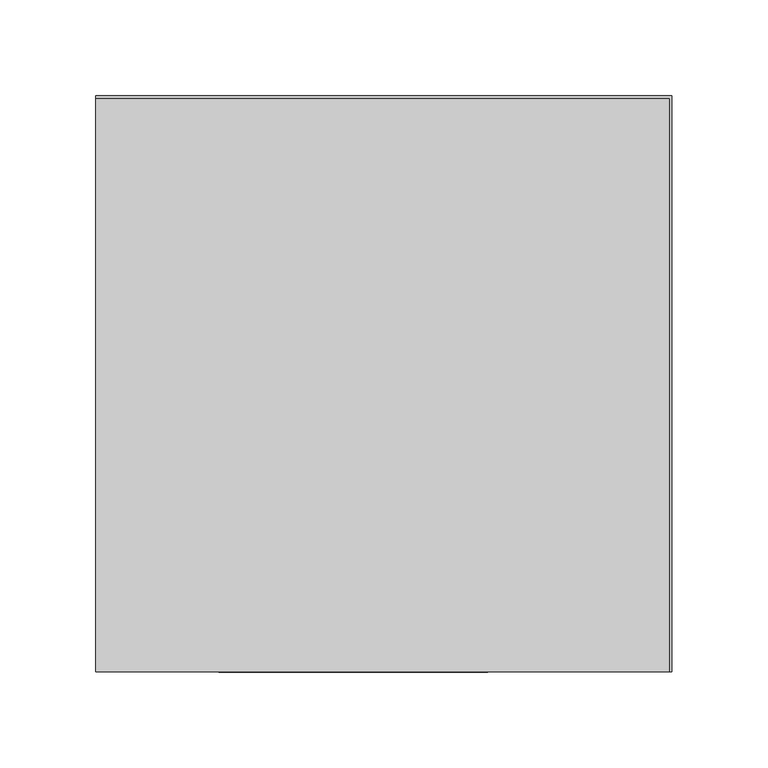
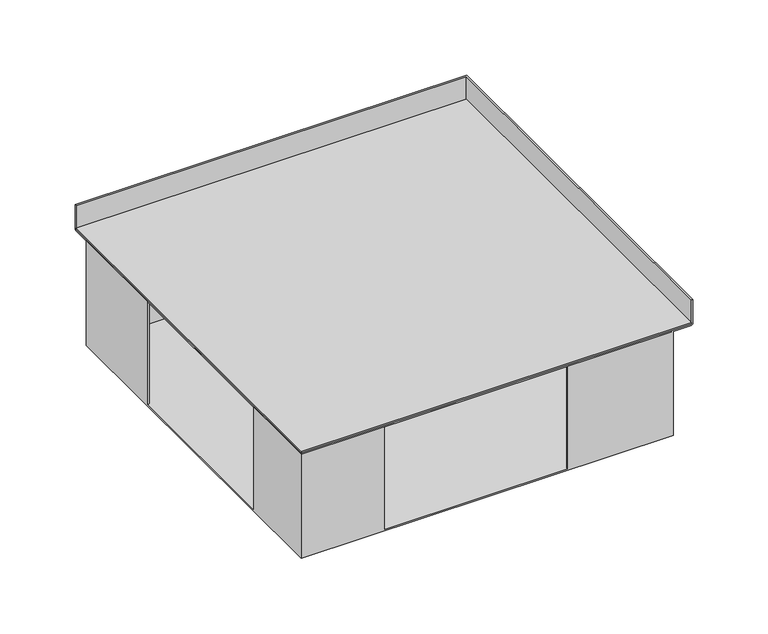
"""IFC4 building model written with IfcOpenShell, lengths in millimetres: proxy geometry, TECHNO_Угловой элемент_KVU : 300_105_90°."""

from ifc_helpers import new_model, si_unit, frame, origin, place, context, project, spatial, polyline, circle_curve, ellipse_curve, outline, extrude, source, transform, mapped, element, save
from ifc_brep_helpers import plane_surface, cylinder_surface, advanced_brep


def mechanical_equipment_c6cb3a49(model_context):
    return source(origin(), model_context, "Body", "SolidModel", [
        extrude(outline(polyline([(0.0, 148.8), (298.8, 148.8), (298.8, -150.0), (0.0, -150.0), (0.0, 148.8)])), frame((0.0, 0.0, -19.3), z_axis=(0.0, 0.0, 1.0), x_axis=(1.0, 0.0, 0.0)), (0.0, 0.0, 1.0), 1.2),
        advanced_brep(
        [(284.0, -148.8, -103.8), (284.0, 134.0, -103.8), (1.2, 134.0, -103.8), (1.2, 54.0, -103.8), (0.0, 54.0, -103.8), (0.0, -86.0, -103.8), (1.2, -86.0, -103.8), (1.2, -148.8, -103.8), (64.0, -148.8, -103.8), (64.0, -150.0, -103.8), (204.0, -150.0, -103.8), (204.0, -148.8, -103.8), (0.0, 135.2, -105.0), (285.2, 135.2, -105.0), (285.2, -150.0, -105.0), (0.0, -150.0, -105.0), (0.0, 135.2, -20.5), (0.0, -150.0, -20.5), (0.0, 134.0, -20.5), (0.0, 135.2, -19.3), (0.0, 148.8, -19.3), (0.0, 148.8, 0.0), (0.0, 150.0, 0.0), (0.0, 150.0, -19.3), (0.0, 148.8, -20.5), (0.0, -86.0, -20.8), (0.0, 54.0, -20.8), (285.2, -150.0, -20.5), (298.8, -150.0, -20.5), (300.0, -150.0, -19.3), (300.0, -150.0, 0.0), (298.8, -150.0, 0.0), (298.8, -150.0, -19.3), (285.2, -150.0, -19.3), (284.0, -150.0, -20.5), (64.0, -150.0, -20.8), (204.0, -150.0, -20.8), (285.2, 135.2, -20.5), (1.2, 135.2, -19.3), (1.2, -148.8, -19.3), (285.2, -148.8, -19.3), (298.8, 148.8, -19.3), (285.2, -134.0, -19.3), (16.0, -134.0, -19.3), (16.0, 135.2, -19.3), (285.2, 135.2, -19.3), (16.0, -134.0, -20.5), (16.0, 134.0, -20.5), (284.0, -134.0, -20.5), (284.0, -148.8, -20.5), (1.2, -148.8, -20.5), (1.2, 134.0, -20.5), (1.2, -86.0, -20.8), (1.2, 54.0, -20.8), (204.0, -148.8, -20.8), (64.0, -148.8, -20.8), (300.0, 150.0, -19.3), (300.0, 150.0, 0.0), (298.8, 148.8, 0.0), (298.8, 148.8, -20.5), (284.0, 134.0, -20.5)],
        [
            (0, 1),
            (1, 2),
            (2, 3),
            (3, 4),
            (4, 5),
            (5, 6),
            (6, 7),
            (7, 8),
            (8, 9),
            (9, 10),
            (10, 11),
            (11, 0),
            (12, 13),
            (13, 14),
            (14, 15),
            (15, 12),
            (16, 12),
            (15, 17),
            (17, 18),
            (18, 19, circle_curve(frame((0.0, 135.2, -20.5), z_axis=(-1.0, 0.0, 0.0), x_axis=(0.0, -1.0, 0.0)), 1.2)),
            (19, 20),
            (20, 21),
            (21, 22),
            (22, 23),
            (23, 24, circle_curve(frame((0.0, 148.8, -19.3), z_axis=(-1.0, 0.0, 0.0), x_axis=(0.0, -1.0, 0.0)), 1.2)),
            (24, 16),
            (25, 5),
            (4, 26),
            (26, 25),
            (14, 27),
            (27, 28),
            (28, 29, circle_curve(frame((298.8, -150.0, -19.3), z_axis=(0.0, -1.0, 0.0), x_axis=(-1.0, 0.0, 0.0)), 1.2)),
            (29, 30),
            (30, 31),
            (31, 32),
            (32, 33),
            (33, 34, circle_curve(frame((285.2, -150.0, -20.5), z_axis=(0.0, -1.0, 0.0), x_axis=(-1.0, 0.0, 0.0)), 1.2)),
            (34, 17),
            (9, 35),
            (35, 36),
            (36, 10),
            (16, 37),
            (37, 13),
            (37, 27),
            (38, 39),
            (39, 40),
            (40, 33),
            (32, 41),
            (41, 20),
            (19, 38),
            (42, 43),
            (43, 44),
            (44, 45),
            (45, 42),
            (43, 46),
            (46, 47),
            (47, 44, circle_curve(frame((16.0, 135.2, -20.5), z_axis=(-1.0, 0.0, 0.0), x_axis=(0.0, -1.0, 0.0)), 1.2)),
            (42, 48, circle_curve(frame((285.2, -134.0, -20.5), z_axis=(0.0, -1.0, 0.0), x_axis=(-1.0, 0.0, 0.0)), 1.2)),
            (48, 46),
            (48, 49),
            (49, 50),
            (50, 51),
            (51, 47),
            (50, 7),
            (6, 52),
            (52, 53),
            (53, 3),
            (2, 51),
            (49, 0),
            (11, 54),
            (54, 55),
            (55, 8),
            (38, 18, ellipse_curve(frame((1.2, 135.2, -20.5), z_axis=(0.7071067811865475, -0.7071067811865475, 0.0), x_axis=(0.7071067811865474, 0.7071067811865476, 0.0)), 1.6970563, 1.2)),
            (17, 39, ellipse_curve(frame((1.2, -148.8, -20.5), z_axis=(-0.7071067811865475, 0.7071067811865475, 0.0), x_axis=(0.7071067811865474, 0.7071067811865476, 0.0)), 1.6970563, 1.2)),
            (34, 40, ellipse_curve(frame((285.2, -148.8, -20.5), z_axis=(-0.7071067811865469, 0.707106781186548, 0.0), x_axis=(-0.7071067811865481, -0.7071067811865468, 0.0)), 1.6970563, 1.2)),
            (29, 56),
            (56, 57),
            (57, 30),
            (57, 22),
            (21, 58),
            (58, 31),
            (58, 41),
            (24, 59),
            (59, 28),
            (59, 56, ellipse_curve(frame((298.8, 148.8, -19.3), z_axis=(0.7071067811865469, -0.707106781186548, 0.0), x_axis=(-0.7071067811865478, -0.707106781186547, 0.0)), 1.6970563, 1.2)),
            (56, 23),
            (45, 60, ellipse_curve(frame((285.2, 135.2, -20.5), z_axis=(0.7071067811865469, -0.707106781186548, 0.0), x_axis=(-0.7071067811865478, -0.707106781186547, 0.0)), 1.6970563, 1.2)),
            (60, 48),
            (60, 1),
            (47, 60),
            (25, 52),
            (53, 26),
            (55, 35),
            (54, 36),
        ],
        [
            plane_surface(frame((0.0, 134.0, -103.8), z_axis=(0.0, 0.0, 1.0), x_axis=(0.0, -1.0, 0.0))),
            plane_surface(frame((0.0, 134.0, -105.0), z_axis=(0.0, 0.0, -1.0), x_axis=(0.0, 1.0, 0.0))),
            plane_surface(frame((0.0, 134.0, -103.8), z_axis=(-1.0, 0.0, 0.0), x_axis=(0.0, 0.0, -1.0))),
            plane_surface(frame((0.0, -150.0, -103.8), z_axis=(0.0, -1.0, 0.0), x_axis=(0.0, 0.0, -1.0))),
            plane_surface(frame((0.0, 135.2, -105.0), z_axis=(0.0, 1.0, 0.0), x_axis=(0.0, 0.0, -1.0))),
            plane_surface(frame((285.2, -150.0, -105.0), z_axis=(1.0, 0.0, 0.0), x_axis=(0.0, 0.0, -1.0))),
            plane_surface(frame((1.2, 135.2, -19.3), z_axis=(0.0, 0.0, 1.0), x_axis=(0.0, -1.0, 0.0))),
            plane_surface(frame((16.0, 135.2, -19.3), z_axis=(1.0, 0.0, 0.0), x_axis=(0.0, -1.0, 0.0))),
            plane_surface(frame((16.0, -134.0, -19.3), z_axis=(0.0, 1.0, 0.0), x_axis=(1.0, 0.0, 0.0))),
            plane_surface(frame((16.0, 135.2, -20.5), z_axis=(0.0, 0.0, -1.0), x_axis=(0.0, -1.0, 0.0))),
            plane_surface(frame((1.2, 135.2, -20.5), z_axis=(1.0, 0.0, 0.0), x_axis=(0.0, -1.0, 0.0))),
            plane_surface(frame((1.2, -148.8, -20.5), z_axis=(0.0, 1.0, 0.0), x_axis=(1.0, 0.0, 0.0))),
            cylinder_surface(frame((1.2, 135.2, -20.5), z_axis=(0.0, 1.0, 0.0), x_axis=(-1.0, 0.0, 0.0)), 1.2),
            cylinder_surface(frame((0.0, -148.8, -20.5), z_axis=(-1.0, 0.0, 0.0), x_axis=(0.0, -1.0, 0.0)), 1.2),
            plane_surface(frame((300.0, -150.0, -19.3), z_axis=(1.0, 0.0, 0.0), x_axis=(0.0, 1.0, 0.0))),
            plane_surface(frame((300.0, -150.0, 0.0), z_axis=(0.0, 0.0, 1.0), x_axis=(0.0, 1.0, 0.0))),
            plane_surface(frame((298.8, -150.0, 0.0), z_axis=(-1.0, 0.0, 0.0), x_axis=(0.0, 1.0, 0.0))),
            plane_surface(frame((285.2, -150.0, -20.5), z_axis=(0.0, 0.0, -1.0), x_axis=(0.0, 1.0, 0.0))),
            cylinder_surface(frame((298.8, -150.0, -19.3), z_axis=(0.0, -1.0, 0.0), x_axis=(-1.0, 0.0, 0.0)), 1.2),
            plane_surface(frame((300.0, 150.0, -19.3), z_axis=(0.0, 1.0, 0.0), x_axis=(-1.0, 0.0, 0.0))),
            plane_surface(frame((298.8, 148.8, 0.0), z_axis=(0.0, -1.0, 0.0), x_axis=(-1.0, 0.0, 0.0))),
            cylinder_surface(frame((150.0, 148.8, -19.3), z_axis=(1.0, 0.0, 0.0), x_axis=(0.0, -1.0, 0.0)), 1.2),
            cylinder_surface(frame((285.2, -150.0, -20.5), z_axis=(0.0, -1.0, 0.0), x_axis=(-1.0, 0.0, 0.0)), 1.2),
            plane_surface(frame((284.0, -150.0, -20.5), z_axis=(-1.0, 0.0, 0.0), x_axis=(0.0, 1.0, 0.0))),
            cylinder_surface(frame((150.0, 135.2, -20.5), z_axis=(1.0, 0.0, 0.0), x_axis=(0.0, -1.0, 0.0)), 1.2),
            plane_surface(frame((284.0, 134.0, -20.5), z_axis=(0.0, -1.0, 0.0), x_axis=(-1.0, 0.0, 0.0))),
            plane_surface(frame((1.2, -86.0, -20.8), z_axis=(0.0, 1.0, 0.0), x_axis=(-1.0, 0.0, 0.0))),
            plane_surface(frame((1.2, 54.0, -103.8), z_axis=(0.0, -1.0, 0.0), x_axis=(-1.0, 0.0, 0.0))),
            plane_surface(frame((1.2, 54.0, -20.8), z_axis=(0.0, 0.0, -1.0), x_axis=(-1.0, 0.0, 0.0))),
            plane_surface(frame((64.0, -148.8, -103.8), z_axis=(1.0, 0.0, 0.0), x_axis=(0.0, -1.0, 0.0))),
            plane_surface(frame((64.0, -148.8, -20.8), z_axis=(0.0, 0.0, -1.0), x_axis=(0.0, -1.0, 0.0))),
            plane_surface(frame((204.0, -148.8, -20.8), z_axis=(-1.0, 0.0, 0.0), x_axis=(0.0, -1.0, 0.0))),
        ],
        [
            (0, [[1, 2, 3, 4, 5, 6, 7, 8, 9, 10, 11, 12]]),
            (1, [[13, 14, 15, 16]]),
            (2, [[17, -16, 18, 19, 20, 21, 22, 23, 24, 25, 26], [27, -5, 28, 29]]),
            (3, [[30, 31, 32, 33, 34, 35, 36, 37, 38, -18, -15], [39, 40, 41, -10]]),
            (4, [[-17, 42, 43, -13]]),
            (5, [[-30, -14, -43, 44]]),
            (6, [[45, 46, 47, -36, 48, 49, -21, 50], [51, 52, 53, 54]]),
            (7, [[-52, 55, 56, 57]]),
            (8, [[-51, 58, 59, -55]]),
            (9, [[-56, -59, 60, 61, 62, 63]]),
            (10, [[64, -7, 65, 66, 67, -3, 68, -62]]),
            (11, [[-64, -61, 69, -12, 70, 71, 72, -8]]),
            (12, [[-45, 73, -19, 74]]),
            (13, [[-46, -74, -38, 75]]),
            (14, [[-33, 76, 77, 78]]),
            (15, [[-34, -78, 79, -23, 80, 81]]),
            (16, [[-35, -81, 82, -48]]),
            (17, [[-31, -44, -42, -26, 83, 84]]),
            (18, [[-32, -84, 85, -76]]),
            (19, [[-77, 86, -24, -79]]),
            (20, [[-80, -22, -49, -82]]),
            (21, [[-83, -25, -86, -85]]),
            (22, [[-37, -47, -75]]),
            (22, [[87, 88, -58, -54]]),
            (23, [[89, -1, -69, -60, -88]]),
            (24, [[-20, -73, -50]]),
            (24, [[-87, -53, -57, 90]]),
            (25, [[-89, -90, -63, -68, -2]]),
            (26, [[-6, -27, 91, -65]]),
            (27, [[-4, -67, 92, -28]]),
            (28, [[-91, -29, -92, -66]]),
            (29, [[93, -39, -9, -72]]),
            (30, [[-93, -71, 94, -40]]),
            (31, [[-94, -70, -11, -41]]),
        ],
    ),
    ])


if __name__ == "__main__":
    model = new_model("IFC4")
    model_context = context("Model", 3, world=origin())
    ifc_project = project(units=[si_unit("LENGTHUNIT", "METRE", prefix="MILLI")], contexts=[model_context])
    site = spatial("IfcSite", under=ifc_project)
    building = spatial("IfcBuilding", under=site)
    placement = place(None, origin())
    mechanical_equipment_shape = mechanical_equipment_c6cb3a49(model_context)
    element("IfcBuildingElementProxy", 1, Name="TECHNO_Угловой элемент_KVU : 300_105_90°", ObjectType="TECHNO_Угловой элемент_KVU : 300_105_90°", at=placement, inside=building, context=model_context, shape_type="MappedRepresentation", body=[
        mapped(mechanical_equipment_shape, transform((0.0, 0.0, 0.0), x_axis=(1.0, 0.0, 0.0), y_axis=(0.0, 1.0, 0.0), z_axis=(0.0, 0.0, 1.0))),
    ])
    save(model, "model.ifc")
